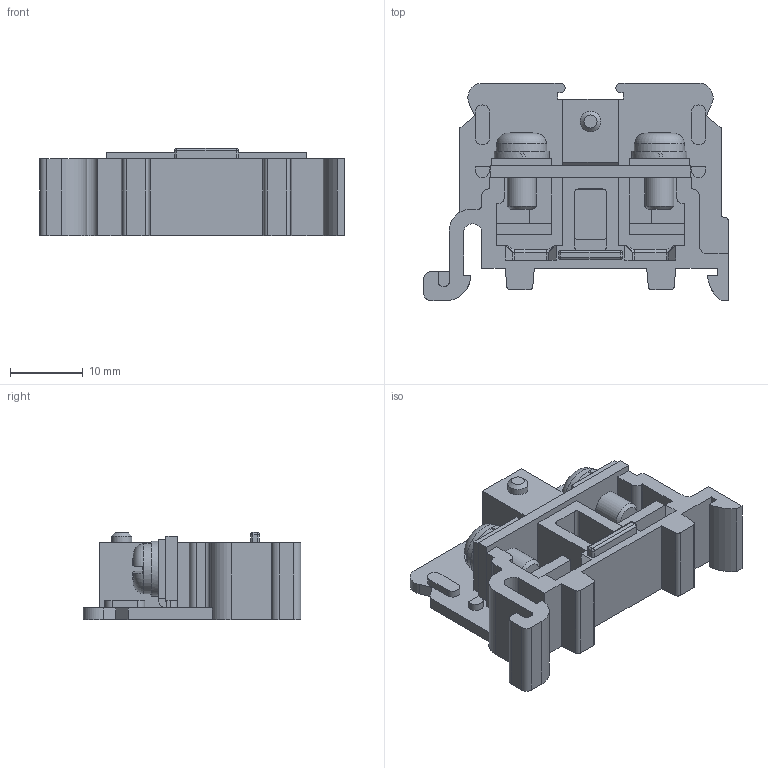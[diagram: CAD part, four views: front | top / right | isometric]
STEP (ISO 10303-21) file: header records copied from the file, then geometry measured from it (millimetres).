
FILE_DESCRIPTION(/* description */ (''),/* implementation_level */ '2;1');
FILE_NAME(/* name */ 'Z:\카다로그-외형도 관련\step-file 외형도\우현곤\YSAT25.stp',/* time_stamp */ '2017-07-19T10:28:40+09:00',/* author */ ('우현곤'),/* organization */ (''),/* preprocessor_version */ 'ST-DEVELOPER v16.1',/* originating_system */ 'Autodesk Inventor 2016',/* authorisation */ '');
FILE_SCHEMA (('AUTOMOTIVE_DESIGN { 1 0 10303 214 3 1 1 }'));
Length unit declared in the file: millimetre
Products named in the file (7): AT025-01; AT025 TERMINAL; AT025 PLATE WASHER; AT025 PLATE WASHER_MIR1; JIS B 1101 - M4 x 8(2); JIS B 1251 - 번호 2 4 x 1; YSAT25
Assembly tree (8 placements, depth 2):
  YSAT25
    AT025-01
    AT025 TERMINAL
    AT025 PLATE WASHER
    AT025 PLATE WASHER_MIR1
    JIS B 1101 - M4 x 8(2)  x2
    JIS B 1251 - 번호 2 4 x 1  x2
Bounding box: 42 x 30 x 12 mm (x, y, z)
Volume: 5086.6 mm3; surface area: 6792.7 mm2
Topology: 8 solids, 8 shells, 305 faces, 768 edges, 489 vertices
Faces by surface type: plane 177, cylinder 91, sphere 18, cone 11, bspline 4, torus 4
Full cylindrical faces by diameter (mm): 2.8 x1, 3.571 x2, 4 x6
Entity records: 8828 total; most frequent: CARTESIAN_POINT 1658, DIRECTION 1492, ORIENTED_EDGE 1430, EDGE_CURVE 715, LINE 508, VECTOR 508, AXIS2_PLACEMENT_3D 492, VERTEX_POINT 462
